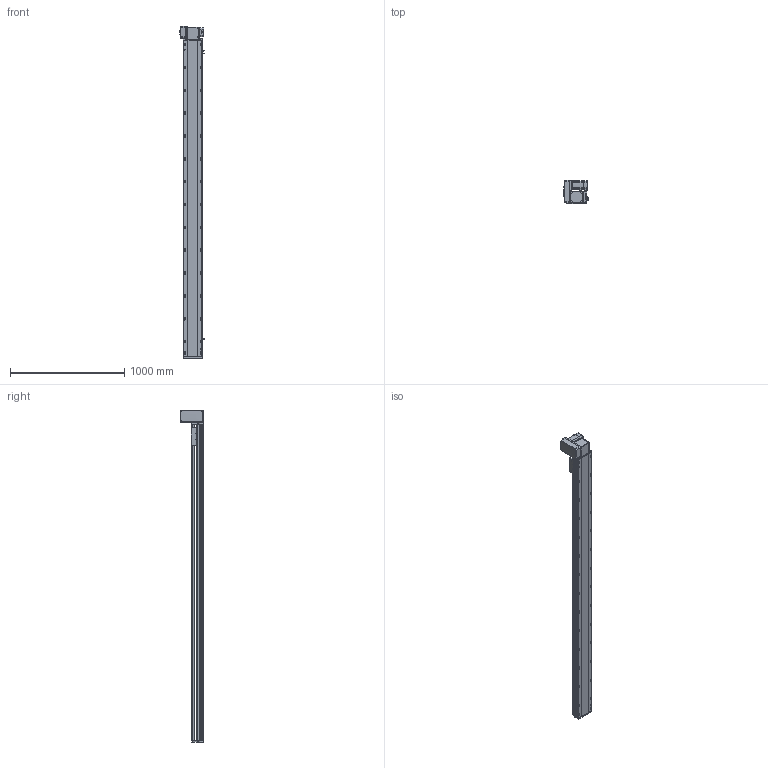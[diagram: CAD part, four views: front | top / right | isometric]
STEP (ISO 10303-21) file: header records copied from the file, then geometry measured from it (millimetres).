
FILE_DESCRIPTION (( 'STEP AP214' ), '1' );
FILE_NAME ('RTB17S-XX-2500-LW-M75-C4.STEP', '2025-12-12T01:17:22', ( '' ), ( '' ), 'SwSTEP 2.0', 'SolidWorks 2018', '' );
FILE_SCHEMA (( 'AUTOMOTIVE_DESIGN' ));
Length unit declared in the file: millimetre
Products named in the file (15): RTB22S-GY-008-M75--萇儂啣^RTB17S-LW-々湍釱蚾饜-750W_RTB17S-XX-XX-LW-M75-C4; 750W萇儂^RTB17S-XX-XX-LW-M75-C4; RTB22S-GY-017P^RTB17S-LW-々湍釱蚾饜-750W_RTB17S-XX-XX-LW-M75-C4; RTB17S-L-007奻裔^RTB17S-XX-XX-LW-M75-C4; RTB17S-LW-々湍釱蚾饜-750W^RTB17S-XX-XX-LW-M75-C4; RTB17S-賑釱^RTB17S-XX-XX-LW-M75-C4; RTB22S-GY-018P^RTB17S-LW-々湍釱蚾饜-750W_RTB17S-XX-XX-LW-M75-C4; RTB22S-GY-005P^RTB17S-LW-々湍釱蚾饜-750W_RTB17S-XX-XX-LW-M75-C4; RTH13-BL-012覜茼え俋离^RTB17S-賑釱_RTB17S-XX-XX-LW-M75-C4; RTB17S-L-014-T20-P75--々湍釱^RTB17S-LW-々湍釱蚾饜-750W_RTB17S-XX-XX-LW-M75-C4; RTB17S-L-004-賑釱^RTB17S-賑釱_RTB17S-XX-XX-LW-M75-C4; RTB17S-L-001-耜醱啣^RTB17S-XX-XX-LW-M75-C4; RTB17-R-011菁釱^RTB17S-XX-XX-LW-M75-C4; RTB17S-XX-2500-LW-M75-C4; EE672^RTB17S-XX-XX-LW-M75-C4
Assembly tree (17 placements, depth 3):
  RTB17S-XX-2500-LW-M75-C4
    RTB17-R-011菁釱^RTB17S-XX-XX-LW-M75-C4
    EE672^RTB17S-XX-XX-LW-M75-C4  x3
    RTB17S-L-001-耜醱啣^RTB17S-XX-XX-LW-M75-C4
    RTB17S-賑釱^RTB17S-XX-XX-LW-M75-C4
      RTB17S-L-004-賑釱^RTB17S-賑釱_RTB17S-XX-XX-LW-M75-C4
      RTH13-BL-012覜茼え俋离^RTB17S-賑釱_RTB17S-XX-XX-LW-M75-C4
    RTB17S-L-007奻裔^RTB17S-XX-XX-LW-M75-C4
    750W萇儂^RTB17S-XX-XX-LW-M75-C4
    RTB17S-LW-々湍釱蚾饜-750W^RTB17S-XX-XX-LW-M75-C4
      RTB17S-L-014-T20-P75--々湍釱^RTB17S-LW-々湍釱蚾饜-750W_RTB17S-XX-XX-LW-M75-C4
      RTB22S-GY-005P^RTB17S-LW-々湍釱蚾饜-750W_RTB17S-XX-XX-LW-M75-C4
      RTB22S-GY-017P^RTB17S-LW-々湍釱蚾饜-750W_RTB17S-XX-XX-LW-M75-C4  x2
      RTB22S-GY-008-M75--萇儂啣^RTB17S-LW-々湍釱蚾饜-750W_RTB17S-XX-XX-LW-M75-C4
      RTB22S-GY-018P^RTB17S-LW-々湍釱蚾饜-750W_RTB17S-XX-XX-LW-M75-C4
Bounding box: 210.4 x 201.5 x 2907.5 mm (x, y, z)
Volume: 21575256.2 mm3; surface area: 3914312.2 mm2
Topology: 17 solids, 17 shells, 2217 faces, 6214 edges, 4022 vertices
Faces by surface type: plane 986, cylinder 815, bspline 294, cone 110, sphere 8, torus 4
Entity records: 64246 total; most frequent: CARTESIAN_POINT 19078, ORIENTED_EDGE 9272, DIRECTION 8582, EDGE_CURVE 4636, AXIS2_PLACEMENT_3D 3042, VERTEX_POINT 3026, VECTOR 2498, LINE 2498
